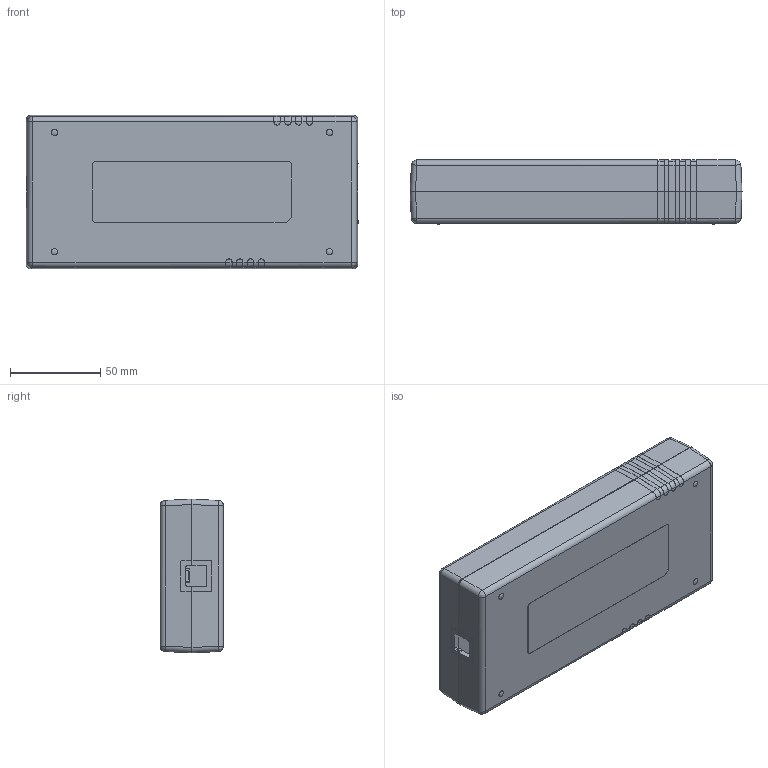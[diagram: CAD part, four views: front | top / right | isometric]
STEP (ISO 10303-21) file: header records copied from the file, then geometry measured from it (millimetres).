
FILE_DESCRIPTION (( 'STEP AP214' ), '1' );
FILE_NAME ('AQM300PSxx_updated.STEP', '2022-05-24T05:27:03', ( '' ), ( '' ), 'SwSTEP 2.0', 'SolidWorks 2020', '' );
FILE_SCHEMA (( 'AUTOMOTIVE_DESIGN' ));
Length unit declared in the file: millimetre
Products named in the file (14): AQM300PS-P120-C14-TOP-OLD-1-R2_^AQM300PSxx(2)_AQM300PSxx; TU301-SP-SR015_18^TU-301-SP-SRC3015-P7J2_ASM_3_ASM_TECX_C14_BACKUP_AQM_AQM300PSxx(2)_AQM300PSxx; PRT0022_2^TU-301-SP-SRC3015-P7J2_ASM_3_ASM_TECX_C14_BACKUP_AQM_AQM300PSxx(2)_AQM300PSxx; GP-TU301-Y5S_3^TU-301-SP-SRC3015-P7J2_ASM_3_ASM_TECX_C14_BACKUP_AQM_AQM300PSxx(2)_AQM300PSxx; AQM300PS-P120-C14-BOTT-OLD-1-R2^AQM300PSxx(2)_AQM300PSxx; TU-301-SP-SRC3015-P7J2_ASM_3_ASM^TECX_C14_BACKUP_AQM_AQM300PSxx(2)_AQM300PSxx; TU301-P7_9_ASM^TU-301-SP-SRC3015-P7J2_ASM_3_ASM_TECX_C14_BACKUP_AQM_AQM300PSxx(2)_AQM300PSxx; AQM300PSxx(2)^AQM300PSxx; MANIFOLD_SOLID_BREP_16574^TU301-P7_9_ASM_TU-301-SP-SRC3015-P7J2_ASM_3_ASM_TECX_C14_BACKUP_AQM_AQM300PSxx(2)_AQM300PSxx; AQM300PSxx_updated; GP-TU301-Y5L_3^TU-301-SP-SRC3015-P7J2_ASM_3_ASM_TECX_C14_BACKUP_AQM_AQM300PSxx(2)_AQM300PSxx; TECX_C14_BACKUP_AQM^AQM300PSxx(2)_AQM300PSxx; MANIFOLD_SOLID_BREP_12909^TU301-P7_9_ASM_TU-301-SP-SRC3015-P7J2_ASM_3_ASM_TECX_C14_BACKUP_AQM_AQM300PSxx(2)_AQM300PSxx; SRF3_4^TU-301-SP-SRC3015-P7J2_ASM_3_ASM_TECX_C14_BACKUP_AQM_AQM300PSxx(2)_AQM300PSxx
Assembly tree (14 placements, depth 6):
  AQM300PSxx_updated
    AQM300PSxx(2)^AQM300PSxx
      TECX_C14_BACKUP_AQM^AQM300PSxx(2)_AQM300PSxx
        TU-301-SP-SRC3015-P7J2_ASM_3_ASM^TECX_C14_BACKUP_AQM_AQM300PSxx(2)_AQM300PSxx
          TU301-P7_9_ASM^TU-301-SP-SRC3015-P7J2_ASM_3_ASM_TECX_C14_BACKUP_AQM_AQM300PSxx(2)_AQM300PSxx
            MANIFOLD_SOLID_BREP_12909^TU301-P7_9_ASM_TU-301-SP-SRC3015-P7J2_ASM_3_ASM_TECX_C14_BACKUP_AQM_AQM300PSxx(2)_AQM300PSxx
            MANIFOLD_SOLID_BREP_16574^TU301-P7_9_ASM_TU-301-SP-SRC3015-P7J2_ASM_3_ASM_TECX_C14_BACKUP_AQM_AQM300PSxx(2)_AQM300PSxx
          TU301-SP-SR015_18^TU-301-SP-SRC3015-P7J2_ASM_3_ASM_TECX_C14_BACKUP_AQM_AQM300PSxx(2)_AQM300PSxx
          SRF3_4^TU-301-SP-SRC3015-P7J2_ASM_3_ASM_TECX_C14_BACKUP_AQM_AQM300PSxx(2)_AQM300PSxx
          GP-TU301-Y5L_3^TU-301-SP-SRC3015-P7J2_ASM_3_ASM_TECX_C14_BACKUP_AQM_AQM300PSxx(2)_AQM300PSxx
          GP-TU301-Y5S_3^TU-301-SP-SRC3015-P7J2_ASM_3_ASM_TECX_C14_BACKUP_AQM_AQM300PSxx(2)_AQM300PSxx  x2
          PRT0022_2^TU-301-SP-SRC3015-P7J2_ASM_3_ASM_TECX_C14_BACKUP_AQM_AQM300PSxx(2)_AQM300PSxx
      AQM300PS-P120-C14-BOTT-OLD-1-R2^AQM300PSxx(2)_AQM300PSxx
      AQM300PS-P120-C14-TOP-OLD-1-R2_^AQM300PSxx(2)_AQM300PSxx
Bounding box: 183.52 x 35.31 x 85.02 mm (x, y, z)
Volume: 97908.3 mm3; surface area: 104683.4 mm2
Topology: 10 solids, 10 shells, 3118 faces, 8627 edges, 5660 vertices
Faces by surface type: plane 2678, cylinder 270, bspline 135, cone 34, torus 1
Entity records: 106310 total; most frequent: CARTESIAN_POINT 28283, ORIENTED_EDGE 17110, DIRECTION 14248, EDGE_CURVE 8555, LINE 7542, VECTOR 7542, VERTEX_POINT 5618, AXIS2_PLACEMENT_3D 3353
